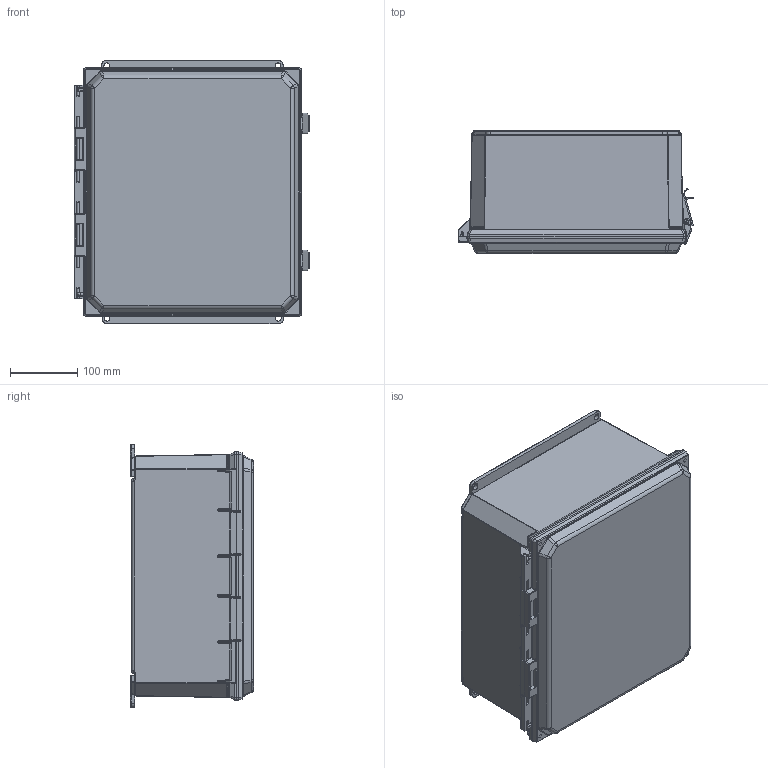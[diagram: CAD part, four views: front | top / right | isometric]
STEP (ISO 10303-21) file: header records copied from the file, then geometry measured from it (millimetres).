
FILE_DESCRIPTION(/* description */ ('STEP AP242','CAx-IF Rec.Pracs.---Representation and Presentation of Product Manufacturing Information (PMI)---4.0---2014-10-13','CAx-IF Rec.Pracs.---3D Tessellated Geometry---0.4---2014-09-14','2;1'),/* implementation_level */ '2;1');
FILE_NAME(/* name */ '660ae0032fae004686b5dd82',/* time_stamp */ '2024-04-01T16:25:42Z',/* author */ (''),/* organization */ (''),/* preprocessor_version */ 'ST-DEVELOPER v19.4',/* originating_system */ ' ',/* authorisation */ ' ');
FILE_SCHEMA (('AP242_MANAGED_MODEL_BASED_3D_ENGINEERING_MIM_LF { 1 0 10303 442 1 1 4 }'));
Products named in the file (74): AD-135 - Rev A - HIPPO4-1 - 4 Plate Outdoor Fiber Patch Panel (Modifi
ed); Blank Adapter Plate <3>; Mini Snap Latch <2>; Plunger - Mini Snap Latch; Grommet - Mini Snap Latch; Blank LGX Footprint Plate; Mini Snap Latch <1>; Blank Adapter Plate <2>; Blank Adapter Plate <4>; Blank Adapter Plate <1>; RLH-FPE-C7137 <1>; Slice Tray Stacked <1>; Splice Tray <1>; Splice Tray Base; Splice Tray Lid; Splice Tray <2>; Velcro Strap - 2 Splice Trays; HIPPO4 Housing <1>; Part 10; Part 1; Part 14; Part 7; Part 6; Part 22; Part 5; Part 24; Part 27; Part 15; Part 21; Part 4; Part 28; Part 25; Part 17; Part 31; Part 2; Part 19; Part 9; Part 26; Part 3; Part 16 ...
Assembly tree (107 placements, depth 6):
  AD-135 - Rev A - HIPPO4-1 - 4 Plate Outdoor Fiber Patch Panel (Modifi
ed)
    Blank Adapter Plate <3>
      Mini Snap Latch <2>
        Plunger - Mini Snap Latch
        Grommet - Mini Snap Latch
      Blank LGX Footprint Plate
      Mini Snap Latch <1>
        Plunger - Mini Snap Latch
        Grommet - Mini Snap Latch
    Blank Adapter Plate <2>
      Mini Snap Latch <1>
        Plunger - Mini Snap Latch
        Grommet - Mini Snap Latch
      Blank LGX Footprint Plate
      Mini Snap Latch <2>
        Grommet - Mini Snap Latch
        Plunger - Mini Snap Latch
    Blank Adapter Plate <4>
      Blank LGX Footprint Plate
      Mini Snap Latch <2>
        Grommet - Mini Snap Latch
        Plunger - Mini Snap Latch
      Mini Snap Latch <1>
        Plunger - Mini Snap Latch
        Grommet - Mini Snap Latch
    Blank Adapter Plate <1>
      Mini Snap Latch <1>
        Grommet - Mini Snap Latch
        Plunger - Mini Snap Latch
      Blank LGX Footprint Plate
      Mini Snap Latch <2>
        Grommet - Mini Snap Latch
        Plunger - Mini Snap Latch
    RLH-FPE-C7137 <1>
      Slice Tray Stacked <1>
        Splice Tray <1>
          Splice Tray Base
          Splice Tray Lid
        Splice Tray <2>
          Splice Tray Base
          Splice Tray Lid
      Velcro Strap - 2 Splice Trays  x2
      HIPPO4 Housing <1>
        Part 10
        Part 1
        Part 14
        Part 7
        Part 6
        Part 22
        Part 5
        Part 24
        Part 27
        Part 15
        Part 21
        Part 4
        Part 28
        Part 25
        Part 17
        Part 31
        Part 2
Bounding box: 350.08 x 182.55 x 390.4 mm (x, y, z)
Volume: 2581265.4 mm3; surface area: 1465621.5 mm2
Topology: 77 solids, 77 shells, 4368 faces, 10586 edges, 6376 vertices
Faces by surface type: plane 1960, cylinder 1296, bspline 587, cone 342, sphere 98, torus 85
Full cylindrical faces by diameter (mm): 2.037 x8, 2.794 x10, 3.15 x3, 3.175 x2, 3.429 x12, 3.454 x4, 3.607 x2, 3.81 x24, 3.937 x8, 4 x2, 4.039 x8, 4.064 x6, 4.5 x4, 4.826 x10, 5.588 x8, 5.842 x8, 6.35 x12, 7.544 x8, 7.925 x12, 8 x2, 8.382 x16, 8.636 x4, 8.712 x4, 9 x2, 9.525 x2, 11.379 x4, 13.03 x4
Entity records: 99439 total; most frequent: CARTESIAN_POINT 33991, ORIENTED_EDGE 13372, DIRECTION 12624, EDGE_CURVE 6686, AXIS2_PLACEMENT_3D 4600, VERTEX_POINT 4137, LINE 3424, VECTOR 3424
